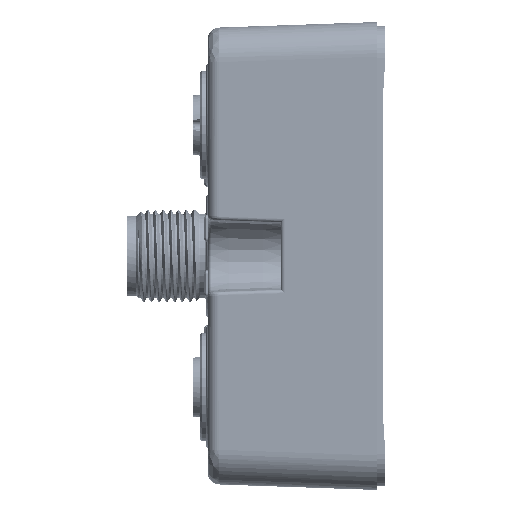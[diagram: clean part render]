
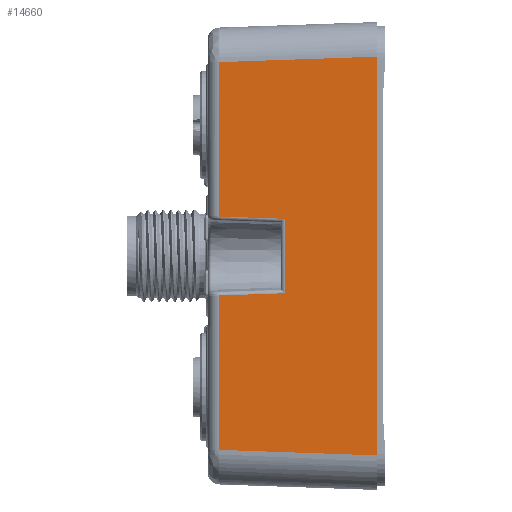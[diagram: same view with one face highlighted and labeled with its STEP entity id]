
A CAD part, left-side view. The second image highlights one B-rep face of the part: STEP entity #14660.
In plain terms, the highlighted planar face has unit normal (-0.999, 0.035, 0).
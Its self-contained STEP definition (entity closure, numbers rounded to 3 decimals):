
#2244=LINE('',#77723,#5981);
#2245=LINE('',#77725,#5982);
#2246=LINE('',#77727,#5983);
#2247=LINE('',#77729,#5984);
#2248=LINE('',#77731,#5985);
#2249=LINE('',#77733,#5986);
#2250=LINE('',#77735,#5987);
#2251=LINE('',#77737,#5988);
#5981=VECTOR('',#60996,1.);
#5982=VECTOR('',#60999,1.);
#5983=VECTOR('',#61000,1.);
#5984=VECTOR('',#61001,1.);
#5985=VECTOR('',#61002,1.);
#5986=VECTOR('',#61003,1.);
#5987=VECTOR('',#61004,1.);
#5988=VECTOR('',#61005,1.);
#9604=FACE_OUTER_BOUND('',#20882,.T.);
#14660=ADVANCED_FACE('',(#9604),#17523,.T.);
#17523=PLANE('',#53891);
#20882=EDGE_LOOP('',(#26831,#26832,#26833,#26834,#26835,#26836,#26837,#26838));
#26831=ORIENTED_EDGE('',*,*,#45177,.F.);
#26832=ORIENTED_EDGE('',*,*,#45178,.T.);
#26833=ORIENTED_EDGE('',*,*,#45179,.T.);
#26834=ORIENTED_EDGE('',*,*,#45180,.F.);
#26835=ORIENTED_EDGE('',*,*,#45181,.T.);
#26836=ORIENTED_EDGE('',*,*,#45182,.F.);
#26837=ORIENTED_EDGE('',*,*,#45183,.T.);
#26838=ORIENTED_EDGE('',*,*,#45176,.F.);
#39908=VERTEX_POINT('',#77720);
#39909=VERTEX_POINT('',#77722);
#39910=VERTEX_POINT('',#77726);
#39911=VERTEX_POINT('',#77728);
#39912=VERTEX_POINT('',#77730);
#39913=VERTEX_POINT('',#77732);
#39914=VERTEX_POINT('',#77734);
#39915=VERTEX_POINT('',#77736);
#45176=EDGE_CURVE('',#39909,#39908,#2244,.T.);
#45177=EDGE_CURVE('',#39910,#39909,#2245,.T.);
#45178=EDGE_CURVE('',#39910,#39911,#2246,.T.);
#45179=EDGE_CURVE('',#39911,#39912,#2247,.T.);
#45180=EDGE_CURVE('',#39913,#39912,#2248,.T.);
#45181=EDGE_CURVE('',#39913,#39914,#2249,.T.);
#45182=EDGE_CURVE('',#39915,#39914,#2250,.T.);
#45183=EDGE_CURVE('',#39915,#39908,#2251,.T.);
#53891=AXIS2_PLACEMENT_3D('',#77738,#61006,#61007);
#60996=DIRECTION('',(0.035,0.999,0.035));
#60999=DIRECTION('',(0.,0.,-1.));
#61000=DIRECTION('',(0.035,0.999,-0.035));
#61001=DIRECTION('',(0.,0.,-1.));
#61002=DIRECTION('',(0.035,0.999,0.035));
#61003=DIRECTION('',(0.,0.,-1.));
#61004=DIRECTION('',(-0.035,-0.999,0.035));
#61005=DIRECTION('',(0.,0.,-1.));
#61006=DIRECTION('',(-0.999,0.035,0.));
#61007=DIRECTION('',(0.,0.,-1.));
#77720=CARTESIAN_POINT('',(0.333,20.552,-55.169));
#77722=CARTESIAN_POINT('',(-0.384,0.,-55.887));
#77723=CARTESIAN_POINT('',(-0.384,0.,-55.887));
#77725=CARTESIAN_POINT('',(-0.384,0.,-4.113));
#77726=CARTESIAN_POINT('',(-0.384,0.,-4.113));
#77727=CARTESIAN_POINT('',(-0.384,0.,-4.113));
#77728=CARTESIAN_POINT('',(0.333,20.552,-4.831));
#77729=CARTESIAN_POINT('',(0.333,20.552,-4.831));
#77730=CARTESIAN_POINT('',(0.333,20.552,-24.869));
#77731=CARTESIAN_POINT('',(0.035,12.017,-25.167));
#77732=CARTESIAN_POINT('',(0.035,12.017,-25.167));
#77733=CARTESIAN_POINT('',(0.035,12.017,-25.167));
#77734=CARTESIAN_POINT('',(0.035,12.017,-34.833));
#77735=CARTESIAN_POINT('',(0.333,20.552,-35.131));
#77736=CARTESIAN_POINT('',(0.333,20.552,-35.131));
#77737=CARTESIAN_POINT('',(0.333,20.552,-35.131));
#77738=CARTESIAN_POINT('',(0.384,22.,-66.315));
